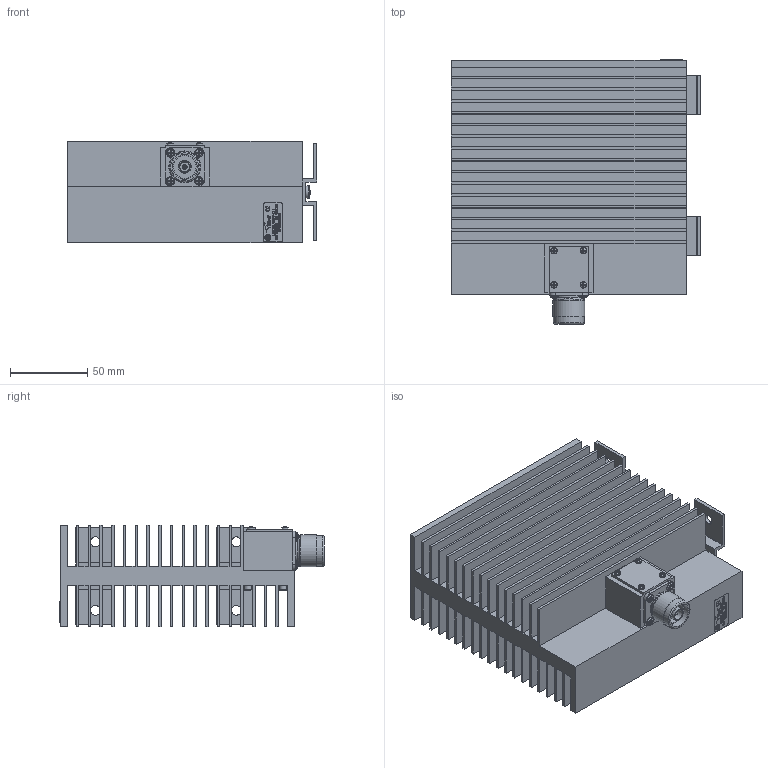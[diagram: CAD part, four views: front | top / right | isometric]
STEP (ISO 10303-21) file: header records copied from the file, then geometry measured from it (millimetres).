
FILE_DESCRIPTION(/* description */ ('Unknown'),/* implementation_level */ '2;1');
FILE_NAME(/* name */ '100-T-MN Rev E STEP',/* time_stamp */ '2021-08-13T14:29:20-04:00',/* author */ ('Unknown'),/* organization */ ('Unknown'),/* preprocessor_version */ 'ST-DEVELOPER v16.7',/* originating_system */ 'Solid Edge',/* authorisation */ 'Unknown');
FILE_SCHEMA (('AUTOMOTIVE_DESIGN {1 0 10303 214 3 1 1}'));
Length unit declared in the file: millimetre
Products named in the file (1): 100-T-MN
Bounding box: 161.81 x 171.44 x 66.04 mm (x, y, z)
Volume: 599628.1 mm3; surface area: 365454.7 mm2
Topology: 1 solids, 1 shells, 1253 faces, 3363 edges, 2219 vertices
Faces by surface type: plane 982, cylinder 142, bspline 89, torus 14, sphere 13, cone 13
Full cylindrical faces by diameter (mm): 1.638 x1, 3.048 x1, 4.242 x4, 4.648 x4, 6.299 x1, 6.35 x4, 7.01 x1, 7.036 x2, 8.179 x4, 8.306 x1, 14.796 x1, 15.062 x1, 15.875 x1, 16.129 x1, 17.45 x2, 17.704 x2, 18.733 x1, 19.844 x2, 20.625 x1
Entity records: 49811 total; most frequent: CARTESIAN_POINT 11166, ORIENTED_EDGE 6486, DIRECTION 5451, EDGE_CURVE 3243, VERTEX_POINT 2194, LINE 2165, VECTOR 2165, AXIS2_PLACEMENT_3D 1643
